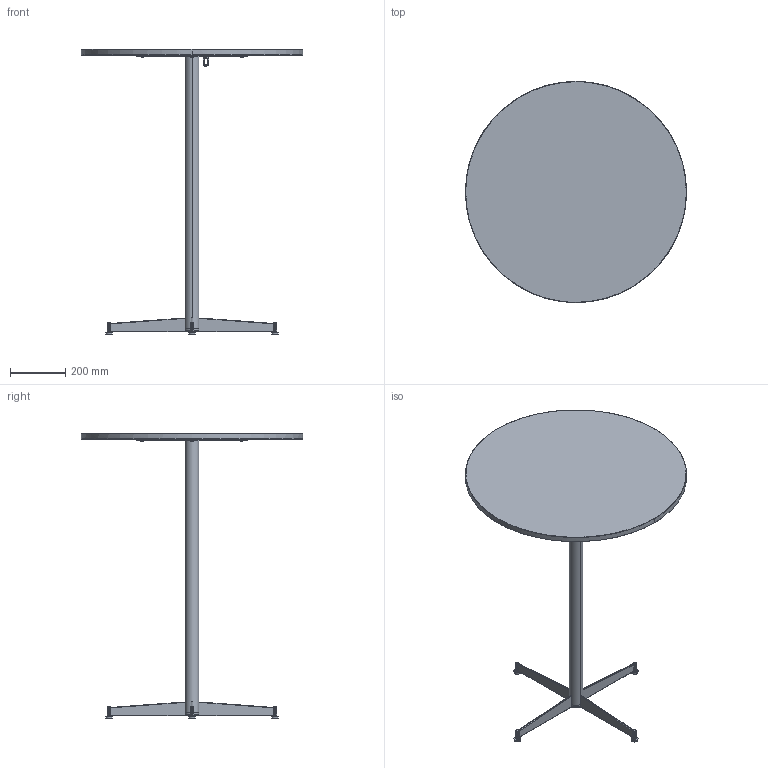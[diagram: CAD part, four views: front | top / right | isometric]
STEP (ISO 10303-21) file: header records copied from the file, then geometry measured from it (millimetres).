
FILE_DESCRIPTION ((), '1');
FILE_NAME ('C:\Users\fcl\Desktop\For at Xbne\Nook Bar Table X80.stp', '2025-10-03T15:17:17', ('Unknown'), ('Unknown'), 'HarmonyWare STEP v1.7.11', 'HarmonyWare Translators', '');
FILE_SCHEMA (('CONFIG_CONTROL_DESIGN'));
Length unit declared in the file: millimetre
Products named in the file (20): 085C002_R01 Nook Bar Table Base Assembly Steel: 085C205_R01 Nook Bar Table Leg Joint Steel: Boss-Extrude2; 085C002_R01 Nook Bar Table Base Assembly Steel: 085A206_R01 Nook Table Leg 6mm Steel test: Fillet1; 085C002_R01 Nook Bar Table Base Assembly Steel: 085A214_R01 Nook Table inner thread stud: Fillet1; 085C002_R01 Nook Bar Table Base Assembly Steel: 085A106_R01 Nook Dining Table X Plate Assembly Steel: 085A201_R01 Nook Dining Table X Plate Steel: Boss-Extrude2; 085C002_R01 Nook Bar Table Base Assembly Steel: 085A106_R01 Nook Dining Table X Plate Assembly Steel: 085A206_R01 Nook Dining Table Wire Attachment: Fillet1; 085C002_R01 Nook Bar Table Base Assembly Steel: SF257M627S-Ackurat: Imported1; 085C002_R01 Nook Bar Table Base Assembly Steel: socket button head screw_iso_ISO 7380 - M6 x 12 - 12N: Hex; 085C002_R01 Nook Bar Table Base Assembly Steel: 085A207_R01 Nook Tabletop \X2\00d8\X0\80: Chamfer3
Bounding box: 800 x 800 x 1031 mm (x, y, z)
Volume: 10778746 mm3; surface area: 1548260 mm2
Topology: 20 solids, 20 shells, 574 faces, 1456 edges, 936 vertices
Faces by surface type: bspline 574
Entity records: 43588 total; most frequent: CARTESIAN_POINT 33758, ORIENTED_EDGE 2896, EDGE_CURVE 1448, VERTEX_POINT 936, EDGE_LOOP 606, B_SPLINE_CURVE_WITH_KNOTS 600, FACE_OUTER_BOUND 574, ADVANCED_FACE 574
